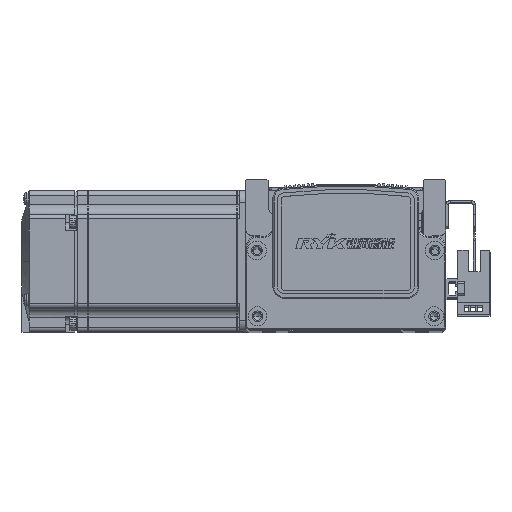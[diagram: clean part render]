
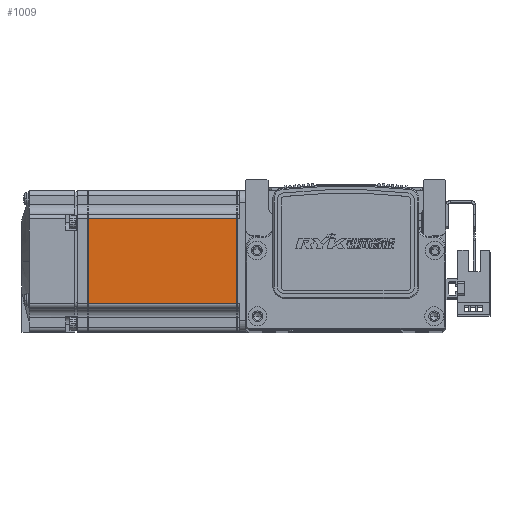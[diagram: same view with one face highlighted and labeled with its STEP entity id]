
A CAD part, top view. The second image highlights one B-rep face of the part: STEP entity #1009.
In plain terms, the highlighted planar face has unit normal (0, 0, 1) as drawn and (0, 0, -1) by its records, which use the part's own axes.
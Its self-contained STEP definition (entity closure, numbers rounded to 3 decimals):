
#1009 = ADVANCED_FACE ( 'NONE', ( #69671 ), #61441, .T. ) ;
#4499 = ORIENTED_EDGE ( 'NONE', *, *, #20895, .T. ) ;
#4513 = ORIENTED_EDGE ( 'NONE', *, *, #20922, .T. ) ;
#4567 = ORIENTED_EDGE ( 'NONE', *, *, #20897, .T. ) ;
#4596 = ORIENTED_EDGE ( 'NONE', *, *, #20998, .T. ) ;
#13843 = CARTESIAN_POINT ( 'NONE',  ( -70.95, -18., -30. ) ) ;
#13894 = CARTESIAN_POINT ( 'NONE',  ( -7.75, -18., -30. ) ) ;
#13914 = CARTESIAN_POINT ( 'NONE',  ( -7.75, 18., -30. ) ) ;
#19933 = VERTEX_POINT ( 'NONE', #44533 ) ;
#20895 = EDGE_CURVE ( 'NONE', #19933, #40598, #28070, .T. ) ;
#20897 = EDGE_CURVE ( 'NONE', #40577, #40569, #28001, .T. ) ;
#20922 = EDGE_CURVE ( 'NONE', #40598, #40577, #28212, .T. ) ;
#20998 = EDGE_CURVE ( 'NONE', #40569, #19933, #28460, .T. ) ;
#27999 = VECTOR ( 'NONE', #44590, 1000. ) ;
#28001 = LINE ( 'NONE', #44596, #28045 ) ;
#28045 = VECTOR ( 'NONE', #44578, 1000. ) ;
#28070 = LINE ( 'NONE', #44599, #27999 ) ;
#28131 = VECTOR ( 'NONE', #44658, 1000. ) ;
#28212 = LINE ( 'NONE', #44682, #28131 ) ;
#28400 = VECTOR ( 'NONE', #43494, 1000. ) ;
#28460 = LINE ( 'NONE', #43508, #28400 ) ;
#31545 = EDGE_LOOP ( 'NONE', ( #4513, #4567, #4596, #4499 ) ) ;
#40569 = VERTEX_POINT ( 'NONE', #13843 ) ;
#40577 = VERTEX_POINT ( 'NONE', #13894 ) ;
#40598 = VERTEX_POINT ( 'NONE', #13914 ) ;
#43494 = DIRECTION ( 'NONE',  ( 0., 1., 0. ) ) ;
#43508 = CARTESIAN_POINT ( 'NONE',  ( -70.95, 25., -30. ) ) ;
#44533 = CARTESIAN_POINT ( 'NONE',  ( -70.95, 18., -30. ) ) ;
#44578 = DIRECTION ( 'NONE',  ( -1., 0., 0. ) ) ;
#44590 = DIRECTION ( 'NONE',  ( 1., 0., 0. ) ) ;
#44596 = CARTESIAN_POINT ( 'NONE',  ( -6.5, -18., -30. ) ) ;
#44599 = CARTESIAN_POINT ( 'NONE',  ( -6.5, 18., -30. ) ) ;
#44658 = DIRECTION ( 'NONE',  ( 0., -1., 0. ) ) ;
#44682 = CARTESIAN_POINT ( 'NONE',  ( -7.75, 25., -30. ) ) ;
#60077 = AXIS2_PLACEMENT_3D ( 'NONE', #61521, #61534, #61479 ) ;
#61441 = PLANE ( 'NONE',  #60077 ) ;
#61479 = DIRECTION ( 'NONE',  ( -1., 0., 0. ) ) ;
#61521 = CARTESIAN_POINT ( 'NONE',  ( -6.5, 25., -30. ) ) ;
#61534 = DIRECTION ( 'NONE',  ( 0., 0., -1. ) ) ;
#69671 = FACE_OUTER_BOUND ( 'NONE', #31545, .T. ) ;
